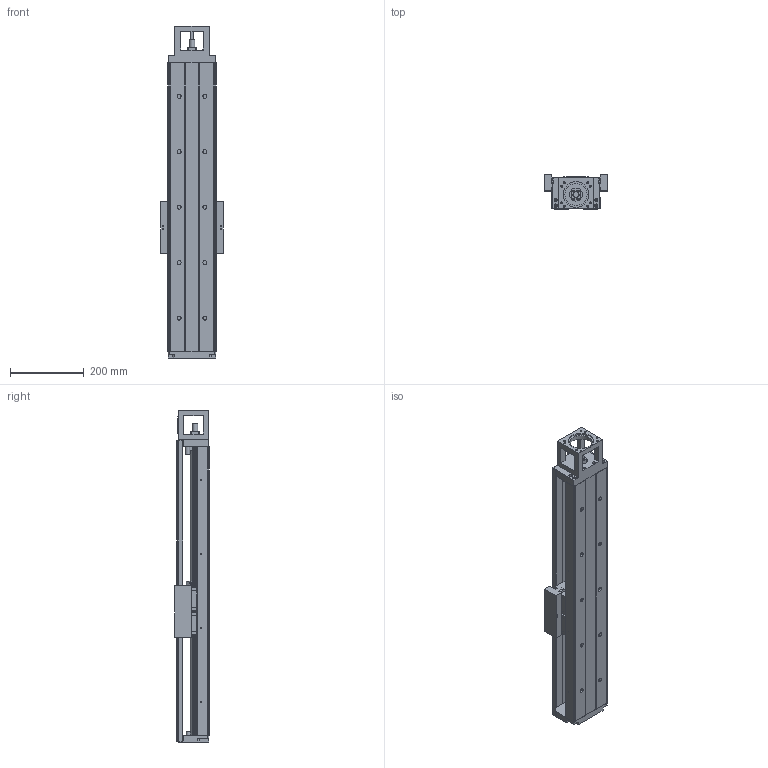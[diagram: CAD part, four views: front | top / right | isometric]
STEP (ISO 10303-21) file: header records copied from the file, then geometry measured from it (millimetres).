
FILE_DESCRIPTION(/* description */ (''),/* implementation_level */ '2;1');
FILE_NAME(/* name */ 'TKK130-780A1F0C_stp.stp',/* time_stamp */ '2017-08-18T09:57:51+08:00',/* author */ (''),/* organization */ (''),/* preprocessor_version */ 'ST-DEVELOPER v15',/* originating_system */ 'SIEMENS PLM Software NX 8.5',/* authorisation */ '');
FILE_SCHEMA (('AUTOMOTIVE_DESIGN { 1 0 10303 214 3 1 1 1 }'));
Length unit declared in the file: millimetre
Products named in the file (3): 022; 011; TKK130-780A1F0C_stp
Assembly tree (2 placements, depth 2):
  TKK130-780A1F0C_stp
    011
    022
Bounding box: 170 x 92 x 898 mm (x, y, z)
Volume: 4410040.6 mm3; surface area: 915006.4 mm2
Topology: 2 solids, 12 shells, 1003 faces, 2715 edges, 1761 vertices
Faces by surface type: plane 580, cylinder 290, cone 93, extrusion 33, bspline 6, torus 1
Full cylindrical faces by diameter (mm): 2.1 x8, 2.5 x8, 3.3 x26, 4.5 x20, 5 x23, 6.6 x10, 6.8 x12, 7 x2, 8 x16, 8.5 x4, 9 x8, 11 x18, 12 x4, 15 x1, 16.3 x1, 17 x14, 17.5 x4, 25 x1, 35 x2, 40 x3, 60.03 x1, 70.03 x1
Entity records: 31179 total; most frequent: CARTESIAN_POINT 6784, DIRECTION 4734, ORIENTED_EDGE 4512, EDGE_CURVE 2256, VERTEX_POINT 1647, AXIS2_PLACEMENT_3D 1617, VECTOR 1500, LINE 1467
